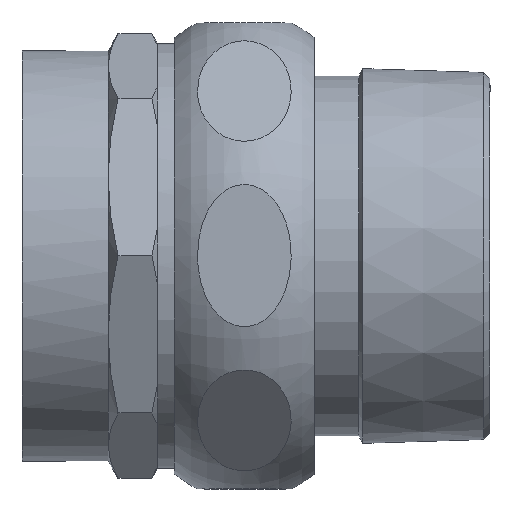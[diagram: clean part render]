
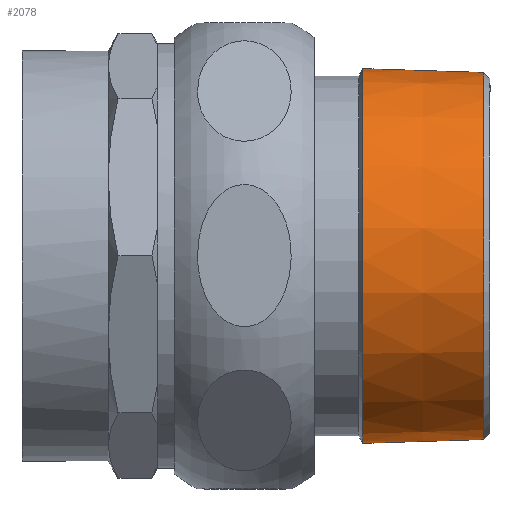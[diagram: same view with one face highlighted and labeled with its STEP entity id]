
A CAD part, top view. The second image highlights one B-rep face of the part: STEP entity #2078.
In plain terms, the highlighted conical face has half-angle 1.789 degrees and reference radius 43.773 mm.
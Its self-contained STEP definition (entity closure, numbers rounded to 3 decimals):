
#2036=CARTESIAN_POINT('',(54.501,43.352,0.));
#2037=VERTEX_POINT('',#2036);
#2038=CARTESIAN_POINT('',(54.501,0.0,0.));
#2039=DIRECTION('',(1.0,0.0,0.0));
#2040=DIRECTION('',(0.0,-1.0,0.0));
#2041=AXIS2_PLACEMENT_3D('',#2038,#2039,#2040);
#2042=CIRCLE('',#2041,43.352);
#2043=EDGE_CURVE('',#2037,#2037,#2042,.T.);
#2059=CARTESIAN_POINT('',(41.0,0.,0.0));
#2060=DIRECTION('',(-1.0,0.,0.0));
#2061=DIRECTION('',(0.0,1.0,0.0));
#2062=AXIS2_PLACEMENT_3D('',#2059,#2060,#2061);
#2063=CONICAL_SURFACE('',#2062,43.774,1.789);
#2064=CARTESIAN_POINT('',(26.,44.242,0.0));
#2065=VERTEX_POINT('',#2064);
#2066=CARTESIAN_POINT('',(26.,0.,0.0));
#2067=DIRECTION('',(1.0,0.0,0.0));
#2068=DIRECTION('',(0.0,1.0,0.0));
#2069=AXIS2_PLACEMENT_3D('',#2066,#2067,#2068);
#2070=CIRCLE('',#2069,44.242);
#2071=EDGE_CURVE('',#2065,#2065,#2070,.T.);
#2072=ORIENTED_EDGE('',*,*,#2071,.T.);
#2073=EDGE_LOOP('',(#2072));
#2074=FACE_OUTER_BOUND('',#2073,.T.);
#2075=ORIENTED_EDGE('',*,*,#2043,.F.);
#2076=EDGE_LOOP('',(#2075));
#2077=FACE_BOUND('',#2076,.T.);
#2078=ADVANCED_FACE('',(#2074,#2077),#2063,.T.);
